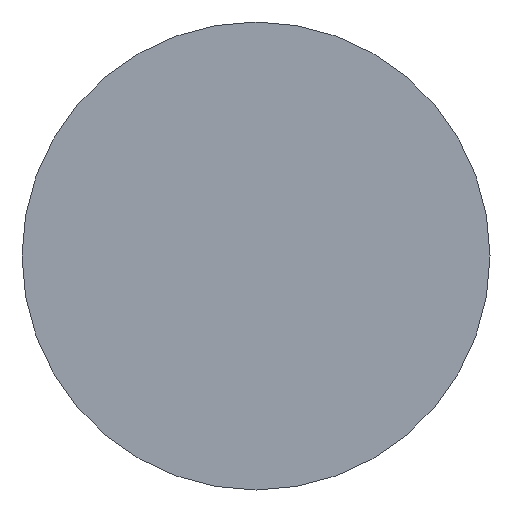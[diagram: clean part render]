
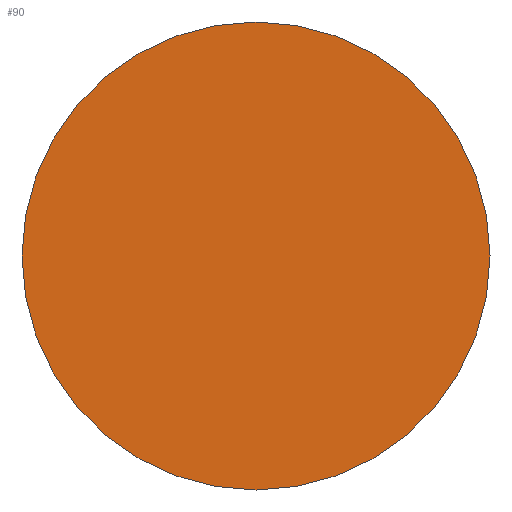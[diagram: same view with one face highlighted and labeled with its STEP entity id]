
A CAD part, left-side view. The second image highlights one B-rep face of the part: STEP entity #90.
In plain terms, the highlighted planar face has unit normal (-1, 0, 0).
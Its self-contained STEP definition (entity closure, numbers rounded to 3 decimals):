
#3 = DIRECTION ( 'NONE',  ( 0., 1., 0. ) ) ;
#5 = EDGE_CURVE ( 'NONE', #260, #144, #71, .T. ) ;
#35 = CARTESIAN_POINT ( 'NONE',  ( 0., -8., 0. ) ) ;
#62 = DIRECTION ( 'NONE',  ( 0., -1., 0. ) ) ;
#71 = CIRCLE ( 'NONE', #197, 8. ) ;
#75 = CARTESIAN_POINT ( 'NONE',  ( 0., 8., 0. ) ) ;
#76 = EDGE_CURVE ( 'NONE', #144, #260, #112, .T. ) ;
#84 = CARTESIAN_POINT ( 'NONE',  ( 0., 0., 0. ) ) ;
#90 = ADVANCED_FACE ( 'NONE', ( #111 ), #147, .T. ) ;
#91 = DIRECTION ( 'NONE',  ( -1., 0., 0. ) ) ;
#111 = FACE_OUTER_BOUND ( 'NONE', #265, .T. ) ;
#112 = CIRCLE ( 'NONE', #156, 8. ) ;
#137 = AXIS2_PLACEMENT_3D ( 'NONE', #84, #91, #62 ) ;
#144 = VERTEX_POINT ( 'NONE', #35 ) ;
#147 = PLANE ( 'NONE',  #137 ) ;
#153 = DIRECTION ( 'NONE',  ( 1., 0., 0. ) ) ;
#156 = AXIS2_PLACEMENT_3D ( 'NONE', #180, #153, #3 ) ;
#169 = DIRECTION ( 'NONE',  ( 0., 1., 0. ) ) ;
#180 = CARTESIAN_POINT ( 'NONE',  ( 0., 0., 0. ) ) ;
#189 = DIRECTION ( 'NONE',  ( 1., 0., 0. ) ) ;
#194 = ORIENTED_EDGE ( 'NONE', *, *, #5, .F. ) ;
#197 = AXIS2_PLACEMENT_3D ( 'NONE', #252, #189, #169 ) ;
#204 = ORIENTED_EDGE ( 'NONE', *, *, #76, .F. ) ;
#252 = CARTESIAN_POINT ( 'NONE',  ( 0., 0., 0. ) ) ;
#260 = VERTEX_POINT ( 'NONE', #75 ) ;
#265 = EDGE_LOOP ( 'NONE', ( #194, #204 ) ) ;
